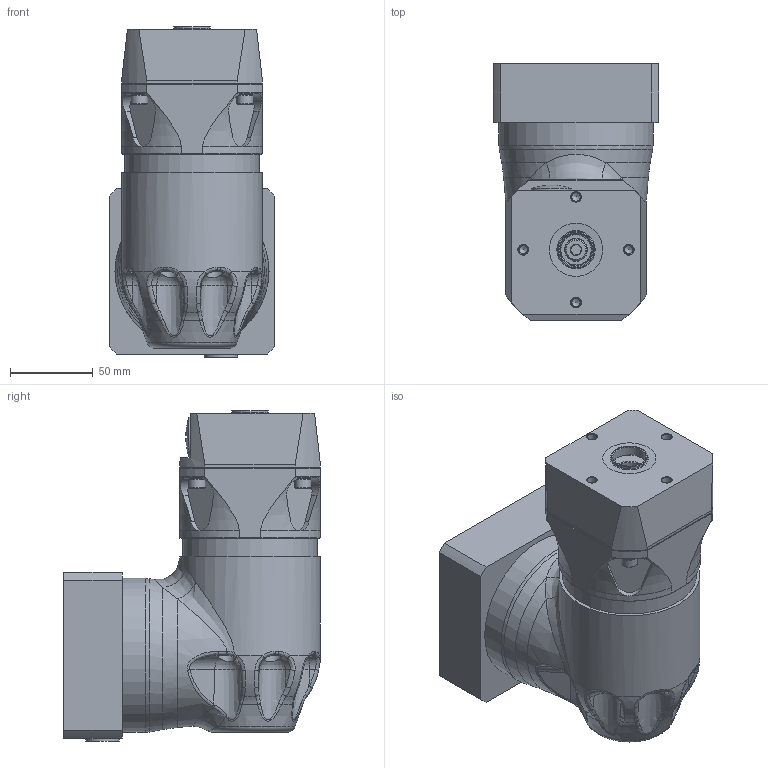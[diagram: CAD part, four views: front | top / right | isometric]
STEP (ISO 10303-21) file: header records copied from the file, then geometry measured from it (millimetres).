
FILE_DESCRIPTION (( 'STEP AP214' ), '1' );
FILE_NAME ('EPR-U-084-M2001-.H1298 (19mm).STEP', '2024-10-24T19:52:29', ( '' ), ( '' ), 'SwSTEP 2.0', 'SolidWorks 2020', '' );
FILE_SCHEMA (( 'AUTOMOTIVE_DESIGN' ));
Length unit declared in the file: millimetre
Products named in the file (15): EPR-U-084; 47050010 BVL M5 5x9x0.60mm ST; 55010071; 4505XXXX M5 SHCS_M5 X 20; 47050012 BVL M8 8x13x0.80mm ST; 47050011 BVL M6 6x10x0.70mm ST; 4506XXXX M6 SHCS_M6 X 20                                            ; EPR-U-084-M2001-.H1298 (19mm); 51040002 14mm Plug; 51020004 M20 Threaded Plug; 55012114 EPL-U-084 to Macron 40-25 Adapter; M2001_EPL-084; 4508XXXX M8 SHCS_M8 X 25; 23040181 EPL-U-084 to Macron 40-25 0.7500in Shaft; H1298_EPL-U-084
Assembly tree (26 placements, depth 3):
  EPR-U-084-M2001-.H1298 (19mm)
    H1298_EPL-U-084
      55012114 EPL-U-084 to Macron 40-25 Adapter
      47050012 BVL M8 8x13x0.80mm ST
      4508XXXX M8 SHCS_M8 X 25
      47050011 BVL M6 6x10x0.70mm ST  x4
      4506XXXX M6 SHCS_M6 X 20                                              x4
      23040181 EPL-U-084 to Macron 40-25 0.7500in Shaft
      51020004 M20 Threaded Plug
    EPR-U-084
    M2001_EPL-084
      51040002 14mm Plug
      55010071
    4505XXXX M5 SHCS_M5 X 20  x4
    47050010 BVL M5 5x9x0.60mm ST  x4
Bounding box: 100 x 155 x 199.75 mm (x, y, z)
Volume: 870767.1 mm3; surface area: 327367.7 mm2
Topology: 89 solids, 89 shells, 3798 faces, 10259 edges, 6682 vertices
Faces by surface type: cone 1482, bspline 1126, plane 677, cylinder 427, torus 79, sphere 7
Full cylindrical faces by diameter (mm): 2 x2, 2.5 x5, 4 x2, 4.2 x12, 4.5 x1, 5 x38, 5.5 x10, 5.55 x4, 6 x12, 6.8 x8, 7 x1, 8 x12, 8.5 x14, 9 x7, 10 x11, 11 x1, 13 x3, 14 x3, 16 x1, 16.5 x1, 18 x1, 18.5 x1, 19 x2, 19.05 x1, 19.3 x1, 19.5 x2, 20 x6, 22 x1, 22.947 x1, 23.04 x1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
Entity records: 78335 total; most frequent: CARTESIAN_POINT 31350, ORIENTED_EDGE 9790, DIRECTION 8277, EDGE_CURVE 4895, AXIS2_PLACEMENT_3D 3785, VERTEX_POINT 3341, EDGE_LOOP 2790, FACE_OUTER_BOUND 2438
